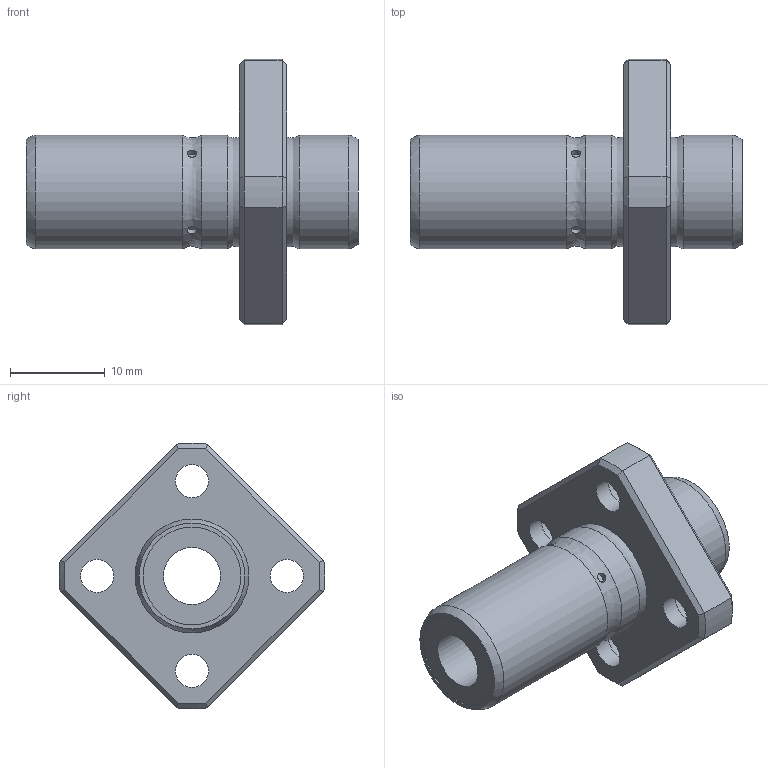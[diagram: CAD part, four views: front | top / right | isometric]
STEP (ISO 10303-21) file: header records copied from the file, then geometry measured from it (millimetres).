
FILE_DESCRIPTION((''),'2;1');
FILE_NAME('D:\製品 (図面)\カタログ用3D\リニアベアリング関連\STEP形式\LFDK-OH\LFDK6-OH.stp','2010-06-03T09:39:43',('Tsuchiya'),(''),'Autodesk Inventor 10','Autodesk Inventor 10','');
FILE_SCHEMA(('AUTOMOTIVE_DESIGN { 1 0 10303 214 1 1 1 1 }'));
Length unit declared in the file: millimetre
Products named in the file (1): LFDK6-OH
Bounding box: 35 x 27.98 x 27.98 mm (x, y, z)
Volume: 4257.3 mm3; surface area: 3290.6 mm2
Topology: 1 solids, 1 shells, 61 faces, 123 edges, 76 vertices
Faces by surface type: bspline 21, plane 18, cylinder 14, cone 8
Full cylindrical faces by diameter (mm): 6 x1, 10.3 x2, 12 x3
Entity records: 2165 total; most frequent: CARTESIAN_POINT 1050, DIRECTION 202, ORIENTED_EDGE 192, EDGE_LOOP 106, EDGE_CURVE 96, AXIS2_PLACEMENT_3D 89, VERTEX_POINT 72, FACE_OUTER_BOUND 61
